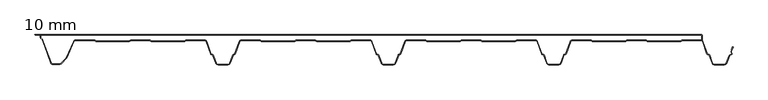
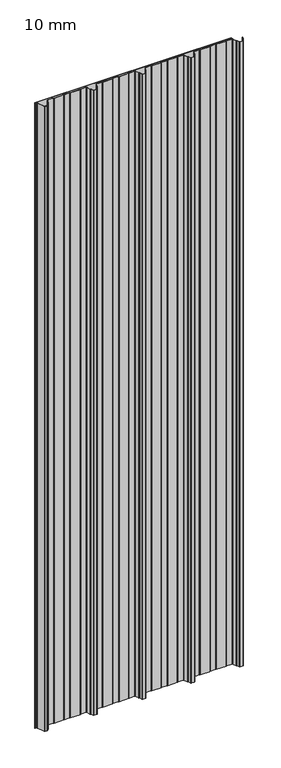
"""IFC4 building model written with IfcOpenShell, lengths in millimetres: plate geometry, HIANSA PANEL - H20.F01.011-PANELES DE CUBIERTA SIN TAPAJUNTA - EASY BOARD 5GR - Panel de Muro Cortina : 10 mm."""

from ifc_helpers import new_model, si_unit, point, frame_2d, origin, origin_with_axes, place, context, project, spatial, polyline, circle_curve, trimmed, segment, composite_curve, outline, extrude, source, transform, mapped, element, save


def plate_10_mm_99b3fad9(model_context):
    return source(origin(), model_context, "Body", "SweptSolid", [
        extrude(outline(polyline([(473.737693, 40.2093838), (474.2344089, 39.5), (474.2344089, 37.5098444), (473.7389076, 38.6227586), (473.737693, 40.2093838)])), origin_with_axes(), (0.0, 0.0, 1.0), 3390.8509027),
        extrude(outline(polyline([(-525.2694232, 40.0367133), (-525.7447449, 40.8599946), (-525.7447449, 44.1767187), (-525.2694232, 45.0), (-525.2694232, 40.0367133)])), origin_with_axes(), (0.0, 0.0, 1.0), 3390.8509027),
        extrude(outline(composite_curve([segment(polyline([(-523.4018496, 38.705703), (-522.7092632, 38.2647399), (-509.7811169, 2.7449496)]), True, "CONTINUOUS"), segment(trimmed(circle_curve(frame_2d((-507.4318853, 3.6)), 2.5), [point((-509.7811169, 2.7449496))], [point((-507.4318853, 1.1))], True, "CARTESIAN"), True, "CONTINUOUS"), segment(polyline([(-507.4318853, 1.1), (-497.4471173, 1.1)]), True, "CONTINUOUS"), segment(trimmed(circle_curve(frame_2d((-497.4471173, 5.6)), 4.5), [point((-497.4471173, 1.1))], [point((-494.2651368, 2.4180195))], True, "CARTESIAN"), True, "CONTINUOUS"), segment(polyline([(-494.2651368, 2.4180195), (-487.5783558, 9.1048005)]), True, "CONTINUOUS"), segment(trimmed(circle_curve(frame_2d((-490.7603364, 12.286781)), 4.5), [point((-487.5783558, 9.1048005))], [point((-486.6314451, 10.4972958))], True, "CARTESIAN"), True, "CONTINUOUS"), segment(polyline([(-486.6314451, 10.4972958), (-475.8420145, 35.3918218)]), True, "CONTINUOUS"), segment(trimmed(circle_curve(frame_2d((-472.6306546, 34.0)), 3.5), [point((-475.8420145, 35.3918218))], [point((-472.6306546, 37.5))], False, "CARTESIAN"), True, "CONTINUOUS"), segment(polyline([(-472.6306546, 37.5), (-444.7657417, 37.5)]), True, "CONTINUOUS"), segment(trimmed(circle_curve(frame_2d((-444.7657417, 35.0)), 2.5), [point((-444.7657417, 37.5))], [point((-443.2082611, 36.95557))], False, "CARTESIAN"), True, "CONTINUOUS"), segment(polyline([(-443.2082611, 36.95557), (-442.5534599, 36.3347606)]), True, "CONTINUOUS"), segment(trimmed(circle_curve(frame_2d((-441.6088875, 37.5)), 1.5), [point((-442.5534599, 36.3347606))], [point((-441.6088875, 36.0))], True, "CARTESIAN"), True, "CONTINUOUS"), segment(polyline([(-441.6088875, 36.0), (-391.6076541, 36.0)]), True, "CONTINUOUS"), segment(trimmed(circle_curve(frame_2d((-391.6076541, 37.5)), 1.5), [point((-391.6076541, 36.0))], [point((-390.6630817, 36.3347606))], True, "CARTESIAN"), True, "CONTINUOUS"), segment(polyline([(-390.6630817, 36.3347606), (-390.0082805, 36.95557)]), True, "CONTINUOUS"), segment(trimmed(circle_curve(frame_2d((-388.4507998, 35.0)), 2.5), [point((-390.0082805, 36.95557))], [point((-388.4507998, 37.5))], False, "CARTESIAN"), True, "CONTINUOUS"), segment(polyline([(-388.4507998, 37.5), (-361.4324084, 37.5)]), True, "CONTINUOUS"), segment(trimmed(circle_curve(frame_2d((-361.4324084, 35.0)), 2.5), [point((-361.4324084, 37.5))], [point((-359.8749278, 36.95557))], False, "CARTESIAN"), True, "CONTINUOUS"), segment(polyline([(-359.8749278, 36.95557), (-359.2201266, 36.3347606)]), True, "CONTINUOUS"), segment(trimmed(circle_curve(frame_2d((-358.2755541, 37.5)), 1.5), [point((-359.2201266, 36.3347606))], [point((-358.2755541, 36.0))], True, "CARTESIAN"), True, "CONTINUOUS"), segment(polyline([(-358.2755541, 36.0), (-308.2743208, 36.0)]), True, "CONTINUOUS"), segment(trimmed(circle_curve(frame_2d((-308.2743208, 37.5)), 1.5), [point((-308.2743208, 36.0))], [point((-307.3297483, 36.3347606))], True, "CARTESIAN"), True, "CONTINUOUS"), segment(polyline([(-307.3297483, 36.3347606), (-306.6749471, 36.95557)]), True, "CONTINUOUS"), segment(trimmed(circle_curve(frame_2d((-305.1174665, 35.0)), 2.5), [point((-306.6749471, 36.95557))], [point((-305.1174665, 37.5))], False, "CARTESIAN"), True, "CONTINUOUS"), segment(polyline([(-305.1174665, 37.5), (-278.1575135, 37.5)]), True, "CONTINUOUS"), segment(trimmed(circle_curve(frame_2d((-278.1575135, 34.0)), 3.5), [point((-278.1575135, 37.5))], [point((-274.8685893, 35.1970706))], False, "CARTESIAN"), True, "CONTINUOUS"), segment(polyline([(-274.8685893, 35.1970706), (-268.1503606, 16.7388909)]), True, "CONTINUOUS"), segment(trimmed(circle_curve(frame_2d((-267.1166987, 17.1151131)), 1.1), [point((-268.1503606, 16.7388909))], [point((-267.4929209, 16.0814512))], True, "CARTESIAN"), True, "CONTINUOUS"), segment(polyline([(-267.4929209, 16.0814512), (-265.646857, 15.4095389)]), True, "CONTINUOUS"), segment(trimmed(circle_curve(frame_2d((-266.1598872, 14.0)), 1.5), [point((-265.646857, 15.4095389))], [point((-264.7503483, 14.5130302))], False, "CARTESIAN"), True, "CONTINUOUS"), segment(polyline([(-264.7503483, 14.5130302), (-260.3924262, 2.5397376)]), True, "CONTINUOUS"), segment(trimmed(circle_curve(frame_2d((-257.479379, 3.6)), 3.1), [point((-260.3924262, 2.5397376))], [point((-257.479379, 0.5))], True, "CARTESIAN"), True, "CONTINUOUS"), segment(polyline([(-257.479379, 0.5), (-242.5207053, 0.5)]), True, "CONTINUOUS"), segment(trimmed(circle_curve(frame_2d((-242.5207053, 3.6)), 3.1), [point((-242.5207053, 0.5))], [point((-239.6076582, 2.5397376))], True, "CARTESIAN"), True, "CONTINUOUS"), segment(polyline([(-239.6076582, 2.5397376), (-235.249736, 14.5130302)]), True, "CONTINUOUS"), segment(trimmed(circle_curve(frame_2d((-233.8401971, 14.0)), 1.5), [point((-235.249736, 14.5130302))], [point((-234.3532273, 15.4095389))], False, "CARTESIAN"), True, "CONTINUOUS"), segment(polyline([(-234.3532273, 15.4095389), (-232.5071635, 16.0814512)]), True, "CONTINUOUS"), segment(trimmed(circle_curve(frame_2d((-232.8833856, 17.1151131)), 1.1), [point((-232.5071635, 16.0814512))], [point((-231.8497238, 16.7388909))], True, "CARTESIAN"), True, "CONTINUOUS"), segment(polyline([(-231.8497238, 16.7388909), (-225.131495, 35.1970706)]), True, "CONTINUOUS"), segment(trimmed(circle_curve(frame_2d((-221.8425709, 34.0)), 3.5), [point((-225.131495, 35.1970706))], [point((-221.8425709, 37.5))], False, "CARTESIAN"), True, "CONTINUOUS"), segment(polyline([(-221.8425709, 37.5), (-194.7657417, 37.5)]), True, "CONTINUOUS"), segment(trimmed(circle_curve(frame_2d((-194.7657417, 35.0)), 2.5), [point((-194.7657417, 37.5))], [point((-193.2082611, 36.95557))], False, "CARTESIAN"), True, "CONTINUOUS"), segment(polyline([(-193.2082611, 36.95557), (-192.5534599, 36.3347606)]), True, "CONTINUOUS"), segment(trimmed(circle_curve(frame_2d((-191.6088875, 37.5)), 1.5), [point((-192.5534599, 36.3347606))], [point((-191.6088875, 36.0))], True, "CARTESIAN"), True, "CONTINUOUS"), segment(polyline([(-191.6088875, 36.0), (-141.6076541, 36.0)]), True, "CONTINUOUS"), segment(trimmed(circle_curve(frame_2d((-141.6076541, 37.5)), 1.5), [point((-141.6076541, 36.0))], [point((-140.6630817, 36.3347606))], True, "CARTESIAN"), True, "CONTINUOUS"), segment(polyline([(-140.6630817, 36.3347606), (-140.0082805, 36.95557)]), True, "CONTINUOUS"), segment(trimmed(circle_curve(frame_2d((-138.4507998, 35.0)), 2.5), [point((-140.0082805, 36.95557))], [point((-138.4507998, 37.5))], False, "CARTESIAN"), True, "CONTINUOUS"), segment(polyline([(-138.4507998, 37.5), (-111.4324084, 37.5)]), True, "CONTINUOUS"), segment(trimmed(circle_curve(frame_2d((-111.4324084, 35.0)), 2.5), [point((-111.4324084, 37.5))], [point((-109.8749278, 36.95557))], False, "CARTESIAN"), True, "CONTINUOUS"), segment(polyline([(-109.8749278, 36.95557), (-109.2201266, 36.3347606)]), True, "CONTINUOUS"), segment(trimmed(circle_curve(frame_2d((-108.2755541, 37.5)), 1.5), [point((-109.2201266, 36.3347606))], [point((-108.2755541, 36.0))], True, "CARTESIAN"), True, "CONTINUOUS"), segment(polyline([(-108.2755541, 36.0), (-58.2743208, 36.0)]), True, "CONTINUOUS"), segment(trimmed(circle_curve(frame_2d((-58.2743208, 37.5)), 1.5), [point((-58.2743208, 36.0))], [point((-57.3297483, 36.3347606))], True, "CARTESIAN"), True, "CONTINUOUS"), segment(polyline([(-57.3297483, 36.3347606), (-56.6749471, 36.95557)]), True, "CONTINUOUS"), segment(trimmed(circle_curve(frame_2d((-55.1174665, 35.0)), 2.5), [point((-56.6749471, 36.95557))], [point((-55.1174665, 37.5))], False, "CARTESIAN"), True, "CONTINUOUS"), segment(polyline([(-55.1174665, 37.5), (-28.0990754, 37.5)]), True, "CONTINUOUS"), segment(trimmed(circle_curve(frame_2d((-28.0990754, 34.0)), 3.5), [point((-28.0990754, 37.5))], [point((-24.8101513, 35.1970706))], False, "CARTESIAN"), True, "CONTINUOUS"), segment(polyline([(-24.8101513, 35.1970706), (-18.0919225, 16.7388909)]), True, "CONTINUOUS"), segment(trimmed(circle_curve(frame_2d((-17.0582607, 17.1151131)), 1.1), [point((-18.0919225, 16.7388909))], [point((-17.4344828, 16.0814512))], True, "CARTESIAN"), True, "CONTINUOUS"), segment(polyline([(-17.4344828, 16.0814512), (-15.588419, 15.4095389)]), True, "CONTINUOUS"), segment(trimmed(circle_curve(frame_2d((-16.1014492, 14.0)), 1.5), [point((-15.588419, 15.4095389))], [point((-14.6919103, 14.5130302))], False, "CARTESIAN"), True, "CONTINUOUS"), segment(polyline([(-14.6919103, 14.5130302), (-10.3339881, 2.5397376)]), True, "CONTINUOUS"), segment(trimmed(circle_curve(frame_2d((-7.420941, 3.6)), 3.1), [point((-10.3339881, 2.5397376))], [point((-7.420941, 0.5))], True, "CARTESIAN"), True, "CONTINUOUS"), segment(polyline([(-7.420941, 0.5), (7.5377327, 0.5)]), True, "CONTINUOUS"), segment(trimmed(circle_curve(frame_2d((7.5377327, 3.6)), 3.1), [point((7.5377327, 0.5))], [point((10.4507799, 2.5397376))], True, "CARTESIAN"), True, "CONTINUOUS"), segment(polyline([(10.4507799, 2.5397376), (14.808702, 14.5130302)]), True, "CONTINUOUS"), segment(trimmed(circle_curve(frame_2d((16.2182409, 14.0)), 1.5), [point((14.808702, 14.5130302))], [point((15.7052107, 15.4095389))], False, "CARTESIAN"), True, "CONTINUOUS"), segment(polyline([(15.7052107, 15.4095389), (17.5512746, 16.0814512)]), True, "CONTINUOUS"), segment(trimmed(circle_curve(frame_2d((17.1750524, 17.1151131)), 1.1), [point((17.5512746, 16.0814512))], [point((18.2087143, 16.7388909))], True, "CARTESIAN"), True, "CONTINUOUS"), segment(polyline([(18.2087143, 16.7388909), (24.926943, 35.1970706)]), True, "CONTINUOUS"), segment(trimmed(circle_curve(frame_2d((28.2158672, 34.0)), 3.5), [point((24.926943, 35.1970706))], [point((28.2158672, 37.5))], False, "CARTESIAN"), True, "CONTINUOUS"), segment(polyline([(28.2158672, 37.5), (55.2342583, 37.5)]), True, "CONTINUOUS"), segment(trimmed(circle_curve(frame_2d((55.2342583, 35.0)), 2.5), [point((55.2342583, 37.5))], [point((56.7917389, 36.95557))], False, "CARTESIAN"), True, "CONTINUOUS"), segment(polyline([(56.7917389, 36.95557), (57.4465401, 36.3347606)]), True, "CONTINUOUS"), segment(trimmed(circle_curve(frame_2d((58.3911125, 37.5)), 1.5), [point((57.4465401, 36.3347606))], [point((58.3911125, 36.0))], True, "CARTESIAN"), True, "CONTINUOUS"), segment(polyline([(58.3911125, 36.0), (108.3923459, 36.0)]), True, "CONTINUOUS"), segment(trimmed(circle_curve(frame_2d((108.3923459, 37.5)), 1.5), [point((108.3923459, 36.0))], [point((109.3369183, 36.3347606))], True, "CARTESIAN"), True, "CONTINUOUS"), segment(polyline([(109.3369183, 36.3347606), (109.9917195, 36.95557)]), True, "CONTINUOUS"), segment(trimmed(circle_curve(frame_2d((111.5492002, 35.0)), 2.5), [point((109.9917195, 36.95557))], [point((111.5492002, 37.5))], False, "CARTESIAN"), True, "CONTINUOUS"), segment(polyline([(111.5492002, 37.5), (138.5675916, 37.5)]), True, "CONTINUOUS"), segment(trimmed(circle_curve(frame_2d((138.5675916, 35.0)), 2.5), [point((138.5675916, 37.5))], [point((140.1250722, 36.95557))], False, "CARTESIAN"), True, "CONTINUOUS"), segment(polyline([(140.1250722, 36.95557), (140.7798734, 36.3347606)]), True, "CONTINUOUS"), segment(trimmed(circle_curve(frame_2d((141.7244459, 37.5)), 1.5), [point((140.7798734, 36.3347606))], [point((141.7244459, 36.0))], True, "CARTESIAN"), True, "CONTINUOUS"), segment(polyline([(141.7244459, 36.0), (191.7256792, 36.0)]), True, "CONTINUOUS"), segment(trimmed(circle_curve(frame_2d((191.7256792, 37.5)), 1.5), [point((191.7256792, 36.0))], [point((192.6702517, 36.3347606))], True, "CARTESIAN"), True, "CONTINUOUS"), segment(polyline([(192.6702517, 36.3347606), (193.3250529, 36.95557)]), True, "CONTINUOUS"), segment(trimmed(circle_curve(frame_2d((194.8825335, 35.0)), 2.5), [point((193.3250529, 36.95557))], [point((194.8825335, 37.5))], False, "CARTESIAN"), True, "CONTINUOUS"), segment(polyline([(194.8825335, 37.5), (221.8424865, 37.5)]), True, "CONTINUOUS"), segment(trimmed(circle_curve(frame_2d((221.8424865, 34.0)), 3.5), [point((221.8424865, 37.5))], [point((225.1314107, 35.1970706))], False, "CARTESIAN"), True, "CONTINUOUS"), segment(polyline([(225.1314107, 35.1970706), (231.8496394, 16.7388909)]), True, "CONTINUOUS"), segment(trimmed(circle_curve(frame_2d((232.8833013, 17.1151131)), 1.1), [point((231.8496394, 16.7388909))], [point((232.5070791, 16.0814512))], True, "CARTESIAN"), True, "CONTINUOUS"), segment(polyline([(232.5070791, 16.0814512), (234.353143, 15.4095389)]), True, "CONTINUOUS"), segment(trimmed(circle_curve(frame_2d((233.8401128, 14.0)), 1.5), [point((234.353143, 15.4095389))], [point((235.2496517, 14.5130302))], False, "CARTESIAN"), True, "CONTINUOUS"), segment(polyline([(235.2496517, 14.5130302), (239.6075738, 2.5397376)]), True, "CONTINUOUS"), segment(trimmed(circle_curve(frame_2d((242.520621, 3.6)), 3.1), [point((239.6075738, 2.5397376))], [point((242.520621, 0.5))], True, "CARTESIAN"), True, "CONTINUOUS"), segment(polyline([(242.520621, 0.5), (257.4792947, 0.5)]), True, "CONTINUOUS"), segment(trimmed(circle_curve(frame_2d((257.4792947, 3.6)), 3.1), [point((257.4792947, 0.5))], [point((260.3923418, 2.5397376))], True, "CARTESIAN"), True, "CONTINUOUS"), segment(polyline([(260.3923418, 2.5397376), (264.750264, 14.5130302)]), True, "CONTINUOUS"), segment(trimmed(circle_curve(frame_2d((266.1598029, 14.0)), 1.5), [point((264.750264, 14.5130302))], [point((265.6467727, 15.4095389))], False, "CARTESIAN"), True, "CONTINUOUS"), segment(polyline([(265.6467727, 15.4095389), (267.4928365, 16.0814512)]), True, "CONTINUOUS"), segment(trimmed(circle_curve(frame_2d((267.1166144, 17.1151131)), 1.1), [point((267.4928365, 16.0814512))], [point((268.1502762, 16.7388909))], True, "CARTESIAN"), True, "CONTINUOUS"), segment(polyline([(268.1502762, 16.7388909), (274.868505, 35.1970706)]), True, "CONTINUOUS"), segment(trimmed(circle_curve(frame_2d((278.1574291, 34.0)), 3.5), [point((274.868505, 35.1970706))], [point((278.1574291, 37.5))], False, "CARTESIAN"), True, "CONTINUOUS"), segment(polyline([(278.1574291, 37.5), (305.2342583, 37.5)]), True, "CONTINUOUS"), segment(trimmed(circle_curve(frame_2d((305.2342583, 35.0)), 2.5), [point((305.2342583, 37.5))], [point((306.7917389, 36.95557))], False, "CARTESIAN"), True, "CONTINUOUS"), segment(polyline([(306.7917389, 36.95557), (307.4465401, 36.3347606)]), True, "CONTINUOUS"), segment(trimmed(circle_curve(frame_2d((308.3911125, 37.5)), 1.5), [point((307.4465401, 36.3347606))], [point((308.3911125, 36.0))], True, "CARTESIAN"), True, "CONTINUOUS"), segment(polyline([(308.3911125, 36.0), (358.3923459, 36.0)]), True, "CONTINUOUS"), segment(trimmed(circle_curve(frame_2d((358.3923459, 37.5)), 1.5), [point((358.3923459, 36.0))], [point((359.3369183, 36.3347606))], True, "CARTESIAN"), True, "CONTINUOUS"), segment(polyline([(359.3369183, 36.3347606), (359.9917195, 36.95557)]), True, "CONTINUOUS"), segment(trimmed(circle_curve(frame_2d((361.5492002, 35.0)), 2.5), [point((359.9917195, 36.95557))], [point((361.5492002, 37.5))], False, "CARTESIAN"), True, "CONTINUOUS"), segment(polyline([(361.5492002, 37.5), (388.5675916, 37.5)]), True, "CONTINUOUS"), segment(trimmed(circle_curve(frame_2d((388.5675916, 35.0)), 2.5), [point((388.5675916, 37.5))], [point((390.1250722, 36.95557))], False, "CARTESIAN"), True, "CONTINUOUS"), segment(polyline([(390.1250722, 36.95557), (390.7798734, 36.3347606)]), True, "CONTINUOUS"), segment(trimmed(circle_curve(frame_2d((391.7244459, 37.5)), 1.5), [point((390.7798734, 36.3347606))], [point((391.7244459, 36.0))], True, "CARTESIAN"), True, "CONTINUOUS"), segment(polyline([(391.7244459, 36.0), (441.7256792, 36.0)]), True, "CONTINUOUS"), segment(trimmed(circle_curve(frame_2d((441.7256792, 37.5)), 1.5), [point((441.7256792, 36.0))], [point((442.6702517, 36.3347606))], True, "CARTESIAN"), True, "CONTINUOUS"), segment(polyline([(442.6702517, 36.3347606), (443.3250529, 36.95557)]), True, "CONTINUOUS"), segment(trimmed(circle_curve(frame_2d((444.8825335, 35.0)), 2.5), [point((443.3250529, 36.95557))], [point((444.8825335, 37.5))], False, "CARTESIAN"), True, "CONTINUOUS"), segment(polyline([(444.8825335, 37.5), (471.9009246, 37.5)]), True, "CONTINUOUS"), segment(trimmed(circle_curve(frame_2d((471.9009246, 34.0)), 3.5), [point((471.9009246, 37.5))], [point((475.1898487, 35.1970706))], False, "CARTESIAN"), True, "CONTINUOUS"), segment(polyline([(475.1898487, 35.1970706), (481.9080775, 16.7388909)]), True, "CONTINUOUS"), segment(trimmed(circle_curve(frame_2d((482.9417393, 17.1151131)), 1.1), [point((481.9080775, 16.7388909))], [point((482.5655172, 16.0814512))], True, "CARTESIAN"), True, "CONTINUOUS"), segment(polyline([(482.5655172, 16.0814512), (484.411581, 15.4095389)]), True, "CONTINUOUS"), segment(trimmed(circle_curve(frame_2d((483.8985508, 14.0)), 1.5), [point((484.411581, 15.4095389))], [point((485.3080897, 14.5130302))], False, "CARTESIAN"), True, "CONTINUOUS"), segment(polyline([(485.3080897, 14.5130302), (489.6660119, 2.5397376)]), True, "CONTINUOUS"), segment(trimmed(circle_curve(frame_2d((492.579059, 3.6)), 3.1), [point((489.6660119, 2.5397376))], [point((492.579059, 0.5))], True, "CARTESIAN"), True, "CONTINUOUS"), segment(polyline([(492.579059, 0.5), (507.6545248, 0.5)]), True, "CONTINUOUS"), segment(trimmed(circle_curve(frame_2d((507.6545248, 3.6)), 3.1), [point((507.6545248, 0.5))], [point((510.5178344, 2.411952))], True, "CARTESIAN"), True, "CONTINUOUS"), segment(polyline([(510.5178344, 2.411952), (515.2913431, 13.9165657)]), True, "CONTINUOUS"), segment(trimmed(circle_curve(frame_2d((516.6768155, 13.3417038)), 1.5), [point((515.2913431, 13.9165657))], [point((516.043991, 14.7016792))], False, "CARTESIAN"), True, "CONTINUOUS"), segment(polyline([(516.043991, 14.7016792), (518.1218082, 15.6685303)]), True, "CONTINUOUS"), segment(trimmed(circle_curve(frame_2d((517.6577369, 16.6658456)), 1.1), [point((518.1218082, 15.6685303))], [point((518.6915479, 17.0416576))], True, "CARTESIAN"), True, "CONTINUOUS"), segment(polyline([(518.6915479, 17.0416576), (517.9085771, 19.1955105)]), True, "CONTINUOUS"), segment(trimmed(circle_curve(frame_2d((519.3183195, 19.7079815)), 1.5), [point((517.9085771, 19.1955105))], [point((517.9328471, 20.2828434))], False, "CARTESIAN"), True, "CONTINUOUS"), segment(polyline([(517.9328471, 20.2828434), (518.6653331, 22.0482051), (518.4650585, 22.8701851), (519.9420806, 26.4299499)]), True, "CONTINUOUS"), segment(trimmed(circle_curve(frame_2d((520.4039047, 26.2383293)), 0.5), [point((519.9420806, 26.4299499))], [point((520.8657289, 26.0467086))], False, "CARTESIAN"), True, "CONTINUOUS"), segment(polyline([(520.8657289, 26.0467086), (518.2455911, 19.7319254), (519.161462, 17.2124813)]), True, "CONTINUOUS"), segment(trimmed(circle_curve(frame_2d((517.6577369, 16.6658456)), 1.6), [point((519.161462, 17.2124813))], [point((518.3327497, 15.2152051))], False, "CARTESIAN"), True, "CONTINUOUS"), segment(polyline([(518.3327497, 15.2152051), (515.9022474, 14.0842424), (510.9796585, 2.2203313)]), True, "CONTINUOUS"), segment(trimmed(circle_curve(frame_2d((507.6545248, 3.6)), 3.6), [point((510.9796585, 2.2203313))], [point((507.6545248, 0.0))], False, "CARTESIAN"), True, "CONTINUOUS"), segment(polyline([(507.6545248, 0.0), (492.579059, 0.0)]), True, "CONTINUOUS"), segment(trimmed(circle_curve(frame_2d((492.579059, 3.6)), 3.6), [point((492.579059, 0.0))], [point((489.1961656, 2.3687275))], False, "CARTESIAN"), True, "CONTINUOUS"), segment(polyline([(489.1961656, 2.3687275), (484.8382434, 14.3420201)]), True, "CONTINUOUS"), segment(trimmed(circle_curve(frame_2d((483.8985508, 14.0)), 1.0), [point((484.8382434, 14.3420201))], [point((484.2405709, 14.9396926))], True, "CARTESIAN"), True, "CONTINUOUS"), segment(polyline([(484.2405709, 14.9396926), (482.3945071, 15.6116049)]), True, "CONTINUOUS"), segment(trimmed(circle_curve(frame_2d((482.9417393, 17.1151131)), 1.6), [point((482.3945071, 15.6116049))], [point((481.4382312, 16.5678808))], False, "CARTESIAN"), True, "CONTINUOUS"), segment(polyline([(481.4382312, 16.5678808), (474.7200024, 35.0260605)]), True, "CONTINUOUS"), segment(trimmed(circle_curve(frame_2d((471.9009246, 34.0)), 3.0), [point((474.7200024, 35.0260605))], [point((471.9009246, 37.0))], True, "CARTESIAN"), True, "CONTINUOUS"), segment(polyline([(471.9009246, 37.0), (444.8825335, 37.0)]), True, "CONTINUOUS"), segment(trimmed(circle_curve(frame_2d((444.8825335, 35.0)), 2.0), [point((444.8825335, 37.0))], [point((443.6525416, 36.5770606))], True, "CARTESIAN"), True, "CONTINUOUS"), segment(polyline([(443.6525416, 36.5770606), (443.0011937, 35.9595251)]), True, "CONTINUOUS"), segment(trimmed(circle_curve(frame_2d((441.7256792, 37.5)), 2.0), [point((443.0011937, 35.9595251))], [point((441.7256792, 35.5))], False, "CARTESIAN"), True, "CONTINUOUS"), segment(polyline([(441.7256792, 35.5), (391.7244459, 35.5)]), True, "CONTINUOUS"), segment(trimmed(circle_curve(frame_2d((391.7244459, 37.5)), 2.0), [point((391.7244459, 35.5))], [point((390.4489314, 35.9595251))], False, "CARTESIAN"), True, "CONTINUOUS"), segment(polyline([(390.4489314, 35.9595251), (389.7975835, 36.5770606)]), True, "CONTINUOUS"), segment(trimmed(circle_curve(frame_2d((388.5675916, 35.0)), 2.0), [point((389.7975835, 36.5770606))], [point((388.5675916, 37.0))], True, "CARTESIAN"), True, "CONTINUOUS"), segment(polyline([(388.5675916, 37.0), (361.5492002, 37.0)]), True, "CONTINUOUS"), segment(trimmed(circle_curve(frame_2d((361.5492002, 35.0)), 2.0), [point((361.5492002, 37.0))], [point((360.3192083, 36.5770606))], True, "CARTESIAN"), True, "CONTINUOUS"), segment(polyline([(360.3192083, 36.5770606), (359.6678604, 35.9595251)]), True, "CONTINUOUS"), segment(trimmed(circle_curve(frame_2d((358.3923459, 37.5)), 2.0), [point((359.6678604, 35.9595251))], [point((358.3923459, 35.5))], False, "CARTESIAN"), True, "CONTINUOUS"), segment(polyline([(358.3923459, 35.5), (308.3911125, 35.5)]), True, "CONTINUOUS"), segment(trimmed(circle_curve(frame_2d((308.3911125, 37.5)), 2.0), [point((308.3911125, 35.5))], [point((307.115598, 35.9595251))], False, "CARTESIAN"), True, "CONTINUOUS"), segment(polyline([(307.115598, 35.9595251), (306.4642501, 36.5770606)]), True, "CONTINUOUS"), segment(trimmed(circle_curve(frame_2d((305.2342583, 35.0)), 2.0), [point((306.4642501, 36.5770606))], [point((305.2342583, 37.0))], True, "CARTESIAN"), True, "CONTINUOUS"), segment(polyline([(305.2342583, 37.0), (278.1574291, 37.0)]), True, "CONTINUOUS"), segment(trimmed(circle_curve(frame_2d((278.1574291, 34.0)), 3.0), [point((278.1574291, 37.0))], [point((275.3383513, 35.0260605))], True, "CARTESIAN"), True, "CONTINUOUS"), segment(polyline([(275.3383513, 35.0260605), (268.6201226, 16.5678808)]), True, "CONTINUOUS"), segment(trimmed(circle_curve(frame_2d((267.1166144, 17.1151131)), 1.6), [point((268.6201226, 16.5678808))], [point((267.6638466, 15.6116049))], False, "CARTESIAN"), True, "CONTINUOUS"), segment(polyline([(267.6638466, 15.6116049), (265.8177828, 14.9396926)]), True, "CONTINUOUS"), segment(trimmed(circle_curve(frame_2d((266.1598029, 14.0)), 1.0), [point((265.8177828, 14.9396926))], [point((265.2201103, 14.3420201))], True, "CARTESIAN"), True, "CONTINUOUS"), segment(polyline([(265.2201103, 14.3420201), (260.8621882, 2.3687275)]), True, "CONTINUOUS"), segment(trimmed(circle_curve(frame_2d((257.4792947, 3.6)), 3.6), [point((260.8621882, 2.3687275))], [point((257.4792947, 0.0))], False, "CARTESIAN"), True, "CONTINUOUS"), segment(polyline([(257.4792947, 0.0), (242.520621, 0.0)]), True, "CONTINUOUS"), segment(trimmed(circle_curve(frame_2d((242.520621, 3.6)), 3.6), [point((242.520621, 0.0))], [point((239.1377275, 2.3687275))], False, "CARTESIAN"), True, "CONTINUOUS"), segment(polyline([(239.1377275, 2.3687275), (234.7798054, 14.3420201)]), True, "CONTINUOUS"), segment(trimmed(circle_curve(frame_2d((233.8401128, 14.0)), 1.0), [point((234.7798054, 14.3420201))], [point((234.1821329, 14.9396926))], True, "CARTESIAN"), True, "CONTINUOUS"), segment(polyline([(234.1821329, 14.9396926), (232.3360691, 15.6116049)]), True, "CONTINUOUS"), segment(trimmed(circle_curve(frame_2d((232.8833013, 17.1151131)), 1.6), [point((232.3360691, 15.6116049))], [point((231.3797931, 16.5678808))], False, "CARTESIAN"), True, "CONTINUOUS"), segment(polyline([(231.3797931, 16.5678808), (224.6615644, 35.0260605)]), True, "CONTINUOUS"), segment(trimmed(circle_curve(frame_2d((221.8424865, 34.0)), 3.0), [point((224.6615644, 35.0260605))], [point((221.8424865, 37.0))], True, "CARTESIAN"), True, "CONTINUOUS"), segment(polyline([(221.8424865, 37.0), (194.8825335, 37.0)]), True, "CONTINUOUS"), segment(trimmed(circle_curve(frame_2d((194.8825335, 35.0)), 2.0), [point((194.8825335, 37.0))], [point((193.6525416, 36.5770606))], True, "CARTESIAN"), True, "CONTINUOUS"), segment(polyline([(193.6525416, 36.5770606), (193.0011937, 35.9595251)]), True, "CONTINUOUS"), segment(trimmed(circle_curve(frame_2d((191.7256792, 37.5)), 2.0), [point((193.0011937, 35.9595251))], [point((191.7256792, 35.5))], False, "CARTESIAN"), True, "CONTINUOUS"), segment(polyline([(191.7256792, 35.5), (141.7244459, 35.5)]), True, "CONTINUOUS"), segment(trimmed(circle_curve(frame_2d((141.7244459, 37.5)), 2.0), [point((141.7244459, 35.5))], [point((140.4489314, 35.9595251))], False, "CARTESIAN"), True, "CONTINUOUS"), segment(polyline([(140.4489314, 35.9595251), (139.7975835, 36.5770606)]), True, "CONTINUOUS"), segment(trimmed(circle_curve(frame_2d((138.5675916, 35.0)), 2.0), [point((139.7975835, 36.5770606))], [point((138.5675916, 37.0))], True, "CARTESIAN"), True, "CONTINUOUS"), segment(polyline([(138.5675916, 37.0), (111.5492002, 37.0)]), True, "CONTINUOUS"), segment(trimmed(circle_curve(frame_2d((111.5492002, 35.0)), 2.0), [point((111.5492002, 37.0))], [point((110.3192083, 36.5770606))], True, "CARTESIAN"), True, "CONTINUOUS"), segment(polyline([(110.3192083, 36.5770606), (109.6678604, 35.9595251)]), True, "CONTINUOUS"), segment(trimmed(circle_curve(frame_2d((108.3923459, 37.5)), 2.0), [point((109.6678604, 35.9595251))], [point((108.3923459, 35.5))], False, "CARTESIAN"), True, "CONTINUOUS"), segment(polyline([(108.3923459, 35.5), (58.3911125, 35.5)]), True, "CONTINUOUS"), segment(trimmed(circle_curve(frame_2d((58.3911125, 37.5)), 2.0), [point((58.3911125, 35.5))], [point((57.115598, 35.9595251))], False, "CARTESIAN"), True, "CONTINUOUS"), segment(polyline([(57.115598, 35.9595251), (56.4642501, 36.5770606)]), True, "CONTINUOUS"), segment(trimmed(circle_curve(frame_2d((55.2342583, 35.0)), 2.0), [point((56.4642501, 36.5770606))], [point((55.2342583, 37.0))], True, "CARTESIAN"), True, "CONTINUOUS"), segment(polyline([(55.2342583, 37.0), (28.2158672, 37.0)]), True, "CONTINUOUS"), segment(trimmed(circle_curve(frame_2d((28.2158672, 34.0)), 3.0), [point((28.2158672, 37.0))], [point((25.3967893, 35.0260605))], True, "CARTESIAN"), True, "CONTINUOUS"), segment(polyline([(25.3967893, 35.0260605), (18.6785606, 16.5678808)]), True, "CONTINUOUS"), segment(trimmed(circle_curve(frame_2d((17.1750524, 17.1151131)), 1.6), [point((18.6785606, 16.5678808))], [point((17.7222846, 15.6116049))], False, "CARTESIAN"), True, "CONTINUOUS"), segment(polyline([(17.7222846, 15.6116049), (15.8762208, 14.9396926)]), True, "CONTINUOUS"), segment(trimmed(circle_curve(frame_2d((16.2182409, 14.0)), 1.0), [point((15.8762208, 14.9396926))], [point((15.2785483, 14.3420201))], True, "CARTESIAN"), True, "CONTINUOUS"), segment(polyline([(15.2785483, 14.3420201), (10.9206262, 2.3687275)]), True, "CONTINUOUS"), segment(trimmed(circle_curve(frame_2d((7.5377327, 3.6)), 3.6), [point((10.9206262, 2.3687275))], [point((7.5377327, 0.0))], False, "CARTESIAN"), True, "CONTINUOUS"), segment(polyline([(7.5377327, 0.0), (-7.420941, 0.0)]), True, "CONTINUOUS"), segment(trimmed(circle_curve(frame_2d((-7.420941, 3.6)), 3.6), [point((-7.420941, 0.0))], [point((-10.8038344, 2.3687275))], False, "CARTESIAN"), True, "CONTINUOUS"), segment(polyline([(-10.8038344, 2.3687275), (-15.1617566, 14.3420201)]), True, "CONTINUOUS"), segment(trimmed(circle_curve(frame_2d((-16.1014492, 14.0)), 1.0), [point((-15.1617566, 14.3420201))], [point((-15.7594291, 14.9396926))], True, "CARTESIAN"), True, "CONTINUOUS"), segment(polyline([(-15.7594291, 14.9396926), (-17.6054929, 15.6116049)]), True, "CONTINUOUS"), segment(trimmed(circle_curve(frame_2d((-17.0582607, 17.1151131)), 1.6), [point((-17.6054929, 15.6116049))], [point((-18.5617688, 16.5678808))], False, "CARTESIAN"), True, "CONTINUOUS"), segment(polyline([(-18.5617688, 16.5678808), (-25.2799976, 35.0260605)]), True, "CONTINUOUS"), segment(trimmed(circle_curve(frame_2d((-28.0990754, 34.0)), 3.0), [point((-25.2799976, 35.0260605))], [point((-28.0990754, 37.0))], True, "CARTESIAN"), True, "CONTINUOUS"), segment(polyline([(-28.0990754, 37.0), (-55.1174665, 37.0)]), True, "CONTINUOUS"), segment(trimmed(circle_curve(frame_2d((-55.1174665, 35.0)), 2.0), [point((-55.1174665, 37.0))], [point((-56.3474584, 36.5770606))], True, "CARTESIAN"), True, "CONTINUOUS"), segment(polyline([(-56.3474584, 36.5770606), (-56.9988063, 35.9595251)]), True, "CONTINUOUS"), segment(trimmed(circle_curve(frame_2d((-58.2743208, 37.5)), 2.0), [point((-56.9988063, 35.9595251))], [point((-58.2743208, 35.5))], False, "CARTESIAN"), True, "CONTINUOUS"), segment(polyline([(-58.2743208, 35.5), (-108.2755541, 35.5)]), True, "CONTINUOUS"), segment(trimmed(circle_curve(frame_2d((-108.2755541, 37.5)), 2.0), [point((-108.2755541, 35.5))], [point((-109.5510686, 35.9595251))], False, "CARTESIAN"), True, "CONTINUOUS"), segment(polyline([(-109.5510686, 35.9595251), (-110.2024165, 36.5770606)]), True, "CONTINUOUS"), segment(trimmed(circle_curve(frame_2d((-111.4324084, 35.0)), 2.0), [point((-110.2024165, 36.5770606))], [point((-111.4324084, 37.0))], True, "CARTESIAN"), True, "CONTINUOUS"), segment(polyline([(-111.4324084, 37.0), (-138.4507998, 37.0)]), True, "CONTINUOUS"), segment(trimmed(circle_curve(frame_2d((-138.4507998, 35.0)), 2.0), [point((-138.4507998, 37.0))], [point((-139.6807917, 36.5770606))], True, "CARTESIAN"), True, "CONTINUOUS"), segment(polyline([(-139.6807917, 36.5770606), (-140.3321396, 35.9595251)]), True, "CONTINUOUS"), segment(trimmed(circle_curve(frame_2d((-141.6076541, 37.5)), 2.0), [point((-140.3321396, 35.9595251))], [point((-141.6076541, 35.5))], False, "CARTESIAN"), True, "CONTINUOUS"), segment(polyline([(-141.6076541, 35.5), (-191.6088875, 35.5)]), True, "CONTINUOUS"), segment(trimmed(circle_curve(frame_2d((-191.6088875, 37.5)), 2.0), [point((-191.6088875, 35.5))], [point((-192.884402, 35.9595251))], False, "CARTESIAN"), True, "CONTINUOUS"), segment(polyline([(-192.884402, 35.9595251), (-193.5357499, 36.5770606)]), True, "CONTINUOUS"), segment(trimmed(circle_curve(frame_2d((-194.7657417, 35.0)), 2.0), [point((-193.5357499, 36.5770606))], [point((-194.7657417, 37.0))], True, "CARTESIAN"), True, "CONTINUOUS"), segment(polyline([(-194.7657417, 37.0), (-221.8425709, 37.0)]), True, "CONTINUOUS"), segment(trimmed(circle_curve(frame_2d((-221.8425709, 34.0)), 3.0), [point((-221.8425709, 37.0))], [point((-224.6616487, 35.0260605))], True, "CARTESIAN"), True, "CONTINUOUS"), segment(polyline([(-224.6616487, 35.0260605), (-231.3798774, 16.5678808)]), True, "CONTINUOUS"), segment(trimmed(circle_curve(frame_2d((-232.8833856, 17.1151131)), 1.6), [point((-231.3798774, 16.5678808))], [point((-232.3361534, 15.6116049))], False, "CARTESIAN"), True, "CONTINUOUS"), segment(polyline([(-232.3361534, 15.6116049), (-234.1822172, 14.9396926)]), True, "CONTINUOUS"), segment(trimmed(circle_curve(frame_2d((-233.8401971, 14.0)), 1.0), [point((-234.1822172, 14.9396926))], [point((-234.7798897, 14.3420201))], True, "CARTESIAN"), True, "CONTINUOUS"), segment(polyline([(-234.7798897, 14.3420201), (-239.1378118, 2.3687275)]), True, "CONTINUOUS"), segment(trimmed(circle_curve(frame_2d((-242.5207053, 3.6)), 3.6), [point((-239.1378118, 2.3687275))], [point((-242.5207053, 0.0))], False, "CARTESIAN"), True, "CONTINUOUS"), segment(polyline([(-242.5207053, 0.0), (-257.479379, 0.0)]), True, "CONTINUOUS"), segment(trimmed(circle_curve(frame_2d((-257.479379, 3.6)), 3.6), [point((-257.479379, 0.0))], [point((-260.8622725, 2.3687275))], False, "CARTESIAN"), True, "CONTINUOUS"), segment(polyline([(-260.8622725, 2.3687275), (-265.2201946, 14.3420201)]), True, "CONTINUOUS"), segment(trimmed(circle_curve(frame_2d((-266.1598872, 14.0)), 1.0), [point((-265.2201946, 14.3420201))], [point((-265.8178671, 14.9396926))], True, "CARTESIAN"), True, "CONTINUOUS"), segment(polyline([(-265.8178671, 14.9396926), (-267.6639309, 15.6116049)]), True, "CONTINUOUS"), segment(trimmed(circle_curve(frame_2d((-267.1166987, 17.1151131)), 1.6), [point((-267.6639309, 15.6116049))], [point((-268.6202069, 16.5678808))], False, "CARTESIAN"), True, "CONTINUOUS"), segment(polyline([(-268.6202069, 16.5678808), (-275.3384356, 35.0260605)]), True, "CONTINUOUS"), segment(trimmed(circle_curve(frame_2d((-278.1575135, 34.0)), 3.0), [point((-275.3384356, 35.0260605))], [point((-278.1575135, 37.0))], True, "CARTESIAN"), True, "CONTINUOUS"), segment(polyline([(-278.1575135, 37.0), (-305.1174665, 37.0)]), True, "CONTINUOUS"), segment(trimmed(circle_curve(frame_2d((-305.1174665, 35.0)), 2.0), [point((-305.1174665, 37.0))], [point((-306.3474584, 36.5770606))], True, "CARTESIAN"), True, "CONTINUOUS"), segment(polyline([(-306.3474584, 36.5770606), (-306.9988063, 35.9595251)]), True, "CONTINUOUS"), segment(trimmed(circle_curve(frame_2d((-308.2743208, 37.5)), 2.0), [point((-306.9988063, 35.9595251))], [point((-308.2743208, 35.5))], False, "CARTESIAN"), True, "CONTINUOUS"), segment(polyline([(-308.2743208, 35.5), (-358.2755541, 35.5)]), True, "CONTINUOUS"), segment(trimmed(circle_curve(frame_2d((-358.2755541, 37.5)), 2.0), [point((-358.2755541, 35.5))], [point((-359.5510686, 35.9595251))], False, "CARTESIAN"), True, "CONTINUOUS"), segment(polyline([(-359.5510686, 35.9595251), (-360.2024165, 36.5770606)]), True, "CONTINUOUS"), segment(trimmed(circle_curve(frame_2d((-361.4324084, 35.0)), 2.0), [point((-360.2024165, 36.5770606))], [point((-361.4324084, 37.0))], True, "CARTESIAN"), True, "CONTINUOUS"), segment(polyline([(-361.4324084, 37.0), (-388.4507998, 37.0)]), True, "CONTINUOUS"), segment(trimmed(circle_curve(frame_2d((-388.4507998, 35.0)), 2.0), [point((-388.4507998, 37.0))], [point((-389.6807917, 36.5770606))], True, "CARTESIAN"), True, "CONTINUOUS"), segment(polyline([(-389.6807917, 36.5770606), (-390.3321396, 35.9595251)]), True, "CONTINUOUS"), segment(trimmed(circle_curve(frame_2d((-391.6076541, 37.5)), 2.0), [point((-390.3321396, 35.9595251))], [point((-391.6076541, 35.5))], False, "CARTESIAN"), True, "CONTINUOUS"), segment(polyline([(-391.6076541, 35.5), (-441.6088875, 35.5)]), True, "CONTINUOUS"), segment(trimmed(circle_curve(frame_2d((-441.6088875, 37.5)), 2.0), [point((-441.6088875, 35.5))], [point((-442.884402, 35.9595251))], False, "CARTESIAN"), True, "CONTINUOUS"), segment(polyline([(-442.884402, 35.9595251), (-443.5357499, 36.5770606)]), True, "CONTINUOUS"), segment(trimmed(circle_curve(frame_2d((-444.7657417, 35.0)), 2.0), [point((-443.5357499, 36.5770606))], [point((-444.7657417, 37.0))], True, "CARTESIAN"), True, "CONTINUOUS"), segment(polyline([(-444.7657417, 37.0), (-472.6306546, 37.0)]), True, "CONTINUOUS"), segment(trimmed(circle_curve(frame_2d((-472.6306546, 34.0)), 3.0), [point((-472.6306546, 37.0))], [point((-475.3832488, 35.1929901))], True, "CARTESIAN"), True, "CONTINUOUS"), segment(polyline([(-475.3832488, 35.1929901), (-486.1726794, 10.2984641)]), True, "CONTINUOUS"), segment(trimmed(circle_curve(frame_2d((-490.7603364, 12.286781)), 5.0), [point((-486.1726794, 10.2984641))], [point((-487.2248025, 8.7512471))], False, "CARTESIAN"), True, "CONTINUOUS"), segment(polyline([(-487.2248025, 8.7512471), (-493.9115834, 2.0644661)]), True, "CONTINUOUS"), segment(trimmed(circle_curve(frame_2d((-497.4471173, 5.6)), 5.0), [point((-493.9115834, 2.0644661))], [point((-497.4471173, 0.6))], False, "CARTESIAN"), True, "CONTINUOUS"), segment(polyline([(-497.4471173, 0.6), (-507.4318853, 0.6)]), True, "CONTINUOUS"), segment(trimmed(circle_curve(frame_2d((-507.4318853, 3.6)), 3.0), [point((-507.4318853, 0.6))], [point((-510.2509632, 2.5739396))], False, "CARTESIAN"), True, "CONTINUOUS"), segment(polyline([(-510.2509632, 2.5739396), (-523.4018496, 38.705703)]), True, "CONTINUOUS")], self_intersect=False)), origin_with_axes(), (0.0, 0.0, 1.0), 3390.8509027),
        extrude(outline(composite_curve([segment(polyline([(473.2344089, 45.0), (-533.3123458, 45.0), (-534.1783712, 45.5), (473.2344089, 45.5)]), True, "CONTINUOUS"), segment(trimmed(circle_curve(frame_2d((473.2344089, 44.5)), 1.0), [point((473.2344089, 45.5))], [point((474.2344089, 44.5))], False, "CARTESIAN"), True, "CONTINUOUS"), segment(polyline([(474.2344089, 44.5), (474.2344089, 39.5), (473.7344089, 40.214074), (473.7344089, 44.5)]), True, "CONTINUOUS"), segment(trimmed(circle_curve(frame_2d((473.2344089, 44.5)), 0.5), [point((473.7344089, 44.5))], [point((473.2344089, 45.0))], True, "CARTESIAN"), True, "CONTINUOUS")], self_intersect=False)), origin_with_axes(), (0.0, 0.0, 1.0), 3390.8509027),
    ])


if __name__ == "__main__":
    model = new_model("IFC4")
    model_context = context("Model", 3, world=origin())
    ifc_project = project(units=[si_unit("LENGTHUNIT", "METRE", prefix="MILLI")], contexts=[model_context])
    site = spatial("IfcSite", under=ifc_project)
    building = spatial("IfcBuilding", under=site)
    placement = place(None, origin())
    plate_10_mm_shape = plate_10_mm_99b3fad9(model_context)
    element("IfcPlate", 1, ObjectType="HIANSA PANEL - H20.F01.011-PANELES DE CUBIERTA SIN TAPAJUNTA - EASY BOARD 5GR - Panel de Muro Cortina : 10 mm", at=placement, inside=building, context=model_context, shape_type="MappedRepresentation", body=[
        mapped(plate_10_mm_shape, transform((0.0, 0.0, 0.0), x_axis=(1.0, 0.0, 0.0), y_axis=(0.0, 1.0, 0.0), z_axis=(0.0, 0.0, 1.0))),
    ])
    save(model, "model.ifc")
